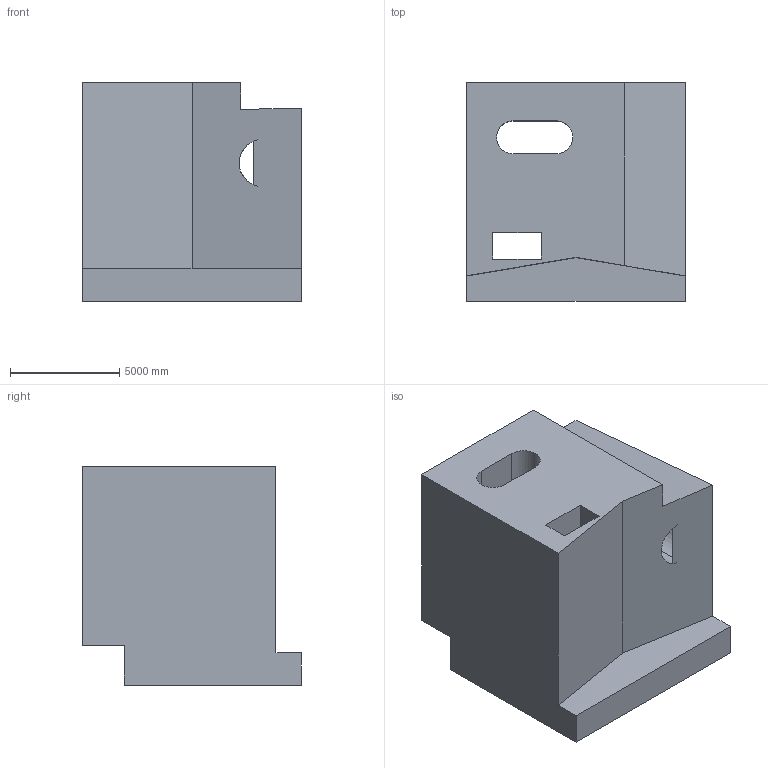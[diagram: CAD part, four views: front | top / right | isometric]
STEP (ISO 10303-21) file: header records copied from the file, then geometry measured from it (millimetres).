
FILE_DESCRIPTION (( 'STEP AP203' ), '1' );
FILE_NAME ('889.STEP', '2022-08-04T16:08:40', ( 'user' ), ( '' ), 'SwSTEP 2.0', 'SolidWorks 2021', '' );
FILE_SCHEMA (( 'CONFIG_CONTROL_DESIGN' ));
Length unit declared in the file: centimetre
Products named in the file (1): 889
Bounding box: 10000 x 10000 x 10000 mm (x, y, z)
Volume: 651011306715.2 mm3; surface area: 790133245.7 mm2
Topology: 1 solids, 1 shells, 34 faces, 105 edges, 70 vertices
Faces by surface type: plane 26, cylinder 8
Entity records: 1667 total; most frequent: CARTESIAN_POINT 627, ORIENTED_EDGE 210, DIRECTION 190, EDGE_CURVE 105, VECTOR 78, LINE 78, VERTEX_POINT 70, AXIS2_PLACEMENT_3D 56
